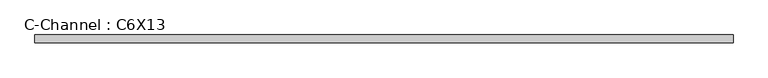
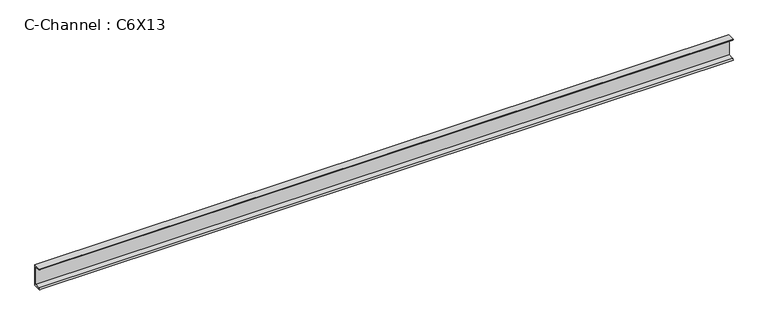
"""IFC4 building model written with IfcOpenShell, lengths in millimetres: beam geometry, C-Channel : C6X13."""

import ifcopenshell
import ifcopenshell.guid

model = None  # the IFC model being written
_history = None  # IfcOwnerHistory: only IFC2X3 demands one
_inside = {}  # id of a spatial element -> (the spatial element, [elements in it])
_under = {}  # id of a project, library or spatial element -> (it, [spatial elements below it])
_declared = {}  # id of a project -> (the project, [libraries it declares])
_typed = {}  # id of a type object -> (the type object, [elements of that type])
_made_of = {}  # id of a material, layer set ... -> (it, [elements and type objects made of it])


def new_model(schema):
    """Start an empty IFC model of exactly this schema.

    Asked for "IFC4X3", IfcOpenShell would pick the latest addendum, in which some entities
    have other attributes; the version numbers below select the first issue.
    IFC2X3 requires an IfcOwnerHistory on every rooted entity: one is made here for all.
    """
    global model, _history
    if schema == "IFC4X3":
        model = ifcopenshell.file(schema_version=(4, 3, 0, 0))
    else:
        model = ifcopenshell.file(schema=schema)
    _inside.clear()
    _under.clear()
    _declared.clear()
    _typed.clear()
    _made_of.clear()
    _history = None
    if model.schema == "IFC2X3":
        org = make("IfcOrganization", Name="unknown")
        user = make(
            "IfcPersonAndOrganization",
            ThePerson=make("IfcPerson", FamilyName="unknown"),
            TheOrganization=org,
        )
        app = make(
            "IfcApplication",
            ApplicationDeveloper=org,
            Version="unknown",
            ApplicationFullName="unknown",
            ApplicationIdentifier="unknown",
        )
        _history = make(
            "IfcOwnerHistory",
            OwningUser=user,
            OwningApplication=app,
            ChangeAction="ADDED",
            CreationDate=0,
        )
    return model


def make(cls, **values):
    """One entity of the class cls with the attributes given. An attribute that is None is left unset."""
    return model.create_entity(
        cls, **{name: value for name, value in values.items() if value is not None}
    )


def rooted(cls, **values):
    """An entity with a GlobalId (a new one), such as an element, a storey or a relation."""
    return make(cls, GlobalId=ifcopenshell.guid.new(), OwnerHistory=_history, **values)


def si_unit(unit_type, name, prefix=None):
    """IfcSIUnit, for example si_unit("LENGTHUNIT", "METRE", prefix="MILLI")."""
    return make("IfcSIUnit", UnitType=unit_type, Prefix=prefix, Name=name)


def assignment(units):
    """IfcUnitAssignment: the units of a project."""
    return None if units is None else make("IfcUnitAssignment", Units=units)


def point(xyz):
    """IfcCartesianPoint."""
    return None if xyz is None else make("IfcCartesianPoint", Coordinates=xyz)


def direction(xyz):
    """IfcDirection."""
    return None if xyz is None else make("IfcDirection", DirectionRatios=xyz)


def frame(location, z_axis=None, x_axis=None):
    """IfcAxis2Placement3D, a coordinate frame: its origin and axes. An axis left out is left unset."""
    return make(
        "IfcAxis2Placement3D",
        Location=point(location),
        Axis=direction(z_axis),
        RefDirection=direction(x_axis),
    )


def frame_2d(location, x_axis=None):
    """IfcAxis2Placement2D, a coordinate frame in the plane: its origin and x axis."""
    return make(
        "IfcAxis2Placement2D", Location=point(location), RefDirection=direction(x_axis)
    )


def origin():
    """The frame at (0, 0, 0) with its axes left unset."""
    return frame((0.0, 0.0, 0.0))


def place(relative_to, where):
    """IfcLocalPlacement: puts the frame where relative to a parent placement (None: the world)."""
    return make(
        "IfcLocalPlacement", PlacementRelTo=relative_to, RelativePlacement=where
    )


def context(
    kind, dimensions, precision=None, world=None, true_north=None, identifier=None
):
    """IfcGeometricRepresentationContext, for example the 3D "Model" context."""
    return make(
        "IfcGeometricRepresentationContext",
        ContextIdentifier=identifier,
        ContextType=kind,
        CoordinateSpaceDimension=dimensions,
        Precision=precision,
        WorldCoordinateSystem=world,
        TrueNorth=true_north,
    )


def project(units=None, contexts=None):
    """IfcProject with its units and contexts."""
    return rooted(
        "IfcProject",
        Name="project",
        RepresentationContexts=contexts,
        UnitsInContext=assignment(units),
    )


def spatial(cls, under=None, at=None, **own):
    """A site, building, storey or space (cls), placed at a placement, below another one or the project."""
    s = rooted(cls, ObjectPlacement=at, **own)
    if under is not None:
        _under.setdefault(under.id(), (under, []))[1].append(s)
    return s


def polyline(points):
    """IfcPolyline through the points."""
    return make("IfcPolyline", Points=[point(p) for p in points])


def circle_curve(where, radius):
    """IfcCircle in the frame where."""
    return make("IfcCircle", Position=where, Radius=radius)


def trimmed(basis, trim1, trim2, sense, master):
    """IfcTrimmedCurve: the piece of a basis curve between two trims."""
    return make(
        "IfcTrimmedCurve",
        BasisCurve=basis,
        Trim1=trim1,
        Trim2=trim2,
        SenseAgreement=sense,
        MasterRepresentation=master,
    )


def segment(curve, same_sense, transition):
    """IfcCompositeCurveSegment."""
    return make(
        "IfcCompositeCurveSegment",
        Transition=transition,
        SameSense=same_sense,
        ParentCurve=curve,
    )


def composite_curve(segments, self_intersect=None):
    """IfcCompositeCurve: segments joined end to end."""
    return make("IfcCompositeCurve", Segments=segments, SelfIntersect=self_intersect)


def outline(outer, holes=None, kind="AREA"):
    """IfcArbitraryClosedProfileDef: a profile drawn as a closed curve; with holes, ...WithVoids."""
    if holes is None:
        return make("IfcArbitraryClosedProfileDef", ProfileType=kind, OuterCurve=outer)
    return make(
        "IfcArbitraryProfileDefWithVoids",
        ProfileType=kind,
        OuterCurve=outer,
        InnerCurves=holes,
    )


def extrude(swept, where, along, depth):
    """IfcExtrudedAreaSolid: the profile swept, set in the frame where, extruded along a direction by depth."""
    return make(
        "IfcExtrudedAreaSolid",
        SweptArea=swept,
        Position=where,
        ExtrudedDirection=direction(along),
        Depth=depth,
    )


def shape(context_of_items, identifier, shape_type, items):
    """IfcShapeRepresentation: the items that make up one representation, for example the "Body"."""
    return make(
        "IfcShapeRepresentation",
        ContextOfItems=context_of_items,
        RepresentationIdentifier=identifier,
        RepresentationType=shape_type,
        Items=items,
    )


def source(mapping_origin, context_of_items, identifier, shape_type, items):
    """IfcRepresentationMap: a shape defined once, which mapped items show again and again."""
    return make(
        "IfcRepresentationMap",
        MappingOrigin=mapping_origin,
        MappedRepresentation=shape(context_of_items, identifier, shape_type, items),
    )


def transform(
    local_origin,
    x_axis=None,
    y_axis=None,
    z_axis=None,
    scale=None,
    scale2=None,
    scale3=None,
    uniform=True,
):
    """IfcCartesianTransformationOperator3D, or its non-uniform kind. x_axis, y_axis, z_axis: its Axis1, 2, 3."""
    if uniform:
        return make(
            "IfcCartesianTransformationOperator3D",
            Axis1=direction(x_axis),
            Axis2=direction(y_axis),
            LocalOrigin=point(local_origin),
            Scale=scale,
            Axis3=direction(z_axis),
        )
    return make(
        "IfcCartesianTransformationOperator3DnonUniform",
        Axis1=direction(x_axis),
        Axis2=direction(y_axis),
        LocalOrigin=point(local_origin),
        Scale=scale,
        Axis3=direction(z_axis),
        Scale2=scale2,
        Scale3=scale3,
    )


def mapped(mapping_source, mapping_target):
    """IfcMappedItem: shows the shape of a source again, moved by a transform."""
    return make(
        "IfcMappedItem", MappingSource=mapping_source, MappingTarget=mapping_target
    )


def made_of(thing, what):
    """Note that an element or type object is made of a material, layer set ...; save() writes the relation."""
    if what is not None:
        _made_of.setdefault(what.id(), (what, []))[1].append(thing)
    return thing


def element(
    cls,
    number,
    at=None,
    inside=None,
    cuts=None,
    type_object=None,
    material=None,
    context=None,
    identifier="Body",
    shape_type=None,
    held_by="IfcProductDefinitionShape",
    body=None,
    shapes=None,
    **own,
):
    """One element of the class cls, such as IfcWall. Its Tag is "e" and its number.

    at: its placement. inside: the storey or other place that contains it. cuts: it is an
    opening in that element (IfcRelVoidsElement). A single representation is given by context,
    identifier, shape_type and body (its items); several are given by shapes. held_by: the class
    of the entity that holds the representations. save() writes the other relations.
    """
    e = rooted(cls, Tag="e%d" % number, ObjectPlacement=at, **own)
    if body is not None:
        shapes = [shape(context, identifier, shape_type, body)]
    if shapes is not None:
        e.Representation = make(held_by, Representations=shapes)
    if inside is not None:
        _inside.setdefault(inside.id(), (inside, []))[1].append(e)
    if cuts is not None:
        rooted(
            "IfcRelVoidsElement", RelatingBuildingElement=cuts, RelatedOpeningElement=e
        )
    if type_object is not None:
        _typed.setdefault(type_object.id(), (type_object, []))[1].append(e)
    return made_of(e, material)


def aggregate(whole, parts):
    """IfcRelAggregates: a whole, such as a stair, and the parts it consists of."""
    return rooted("IfcRelAggregates", RelatingObject=whole, RelatedObjects=parts)


def save(model, path):
    """Write the relations noted so far, then the file.

    IfcRelAggregates (storeys below a building ...), IfcRelContainedInSpatialStructure (elements
    in a storey), IfcRelDefinesByType, IfcRelAssociatesMaterial and IfcRelDeclares: one each for
    every whole, place, type object, material and project.
    """
    for whole, parts in _under.values():
        aggregate(whole, parts)
    for where, things in _inside.values():
        rooted(
            "IfcRelContainedInSpatialStructure",
            RelatedElements=things,
            RelatingStructure=where,
        )
    for kind, things in _typed.values():
        rooted("IfcRelDefinesByType", RelatedObjects=things, RelatingType=kind)
    for what, things in _made_of.values():
        rooted("IfcRelAssociatesMaterial", RelatedObjects=things, RelatingMaterial=what)
    for by, libraries in _declared.values():
        rooted("IfcRelDeclares", RelatingContext=by, RelatedDefinitions=libraries)
    model.write(path)


def c_channel_c6x13_cbce994e(model_context):
    return source(origin(), model_context, "Body", "SweptSolid", [
        extrude(outline(composite_curve([segment(polyline([(13.0556, 76.2), (13.0556, -76.2), (-41.8084, -76.2)]), True, "CONTINUOUS"), segment(trimmed(circle_curve(frame_2d((-33.0962, -76.2)), 8.7122), [point((-41.8084, -76.2))], [point((-33.0962, -67.4878))], False, "CARTESIAN"), True, "CONTINUOUS"), segment(polyline([(-33.0962, -67.4878), (1.9558, -61.9361086), (1.9558, 61.9361086), (-33.0962, 67.4878)]), True, "CONTINUOUS"), segment(trimmed(circle_curve(frame_2d((-33.0962, 76.2)), 8.7122), [point((-33.0962, 67.4878))], [point((-41.8084, 76.2))], False, "CARTESIAN"), True, "CONTINUOUS"), segment(polyline([(-41.8084, 76.2), (13.0556, 76.2)]), True, "CONTINUOUS")], self_intersect=False)), frame((-2415.6589856, 0.0, 0.0), z_axis=(1.0, 0.0, 0.0), x_axis=(0.0, 1.0, 0.0)), (0.0, 0.0, 1.0), 4831.3296367),
    ])


if __name__ == "__main__":
    model = new_model("IFC4")
    model_context = context("Model", 3, world=origin())
    ifc_project = project(units=[si_unit("LENGTHUNIT", "METRE", prefix="MILLI")], contexts=[model_context])
    site = spatial("IfcSite", under=ifc_project)
    building = spatial("IfcBuilding", under=site)
    placement = place(None, origin())
    c_channel_c6x13_shape = c_channel_c6x13_cbce994e(model_context)
    element("IfcBeam", 1, ObjectType="C-Channel : C6X13", at=placement, inside=building, context=model_context, shape_type="MappedRepresentation", body=[
        mapped(c_channel_c6x13_shape, transform((0.0, 0.0, 0.0), x_axis=(1.0, 0.0, 0.0), y_axis=(0.0, 1.0, 0.0), z_axis=(0.0, 0.0, 1.0))),
    ])
    save(model, "model.ifc")
